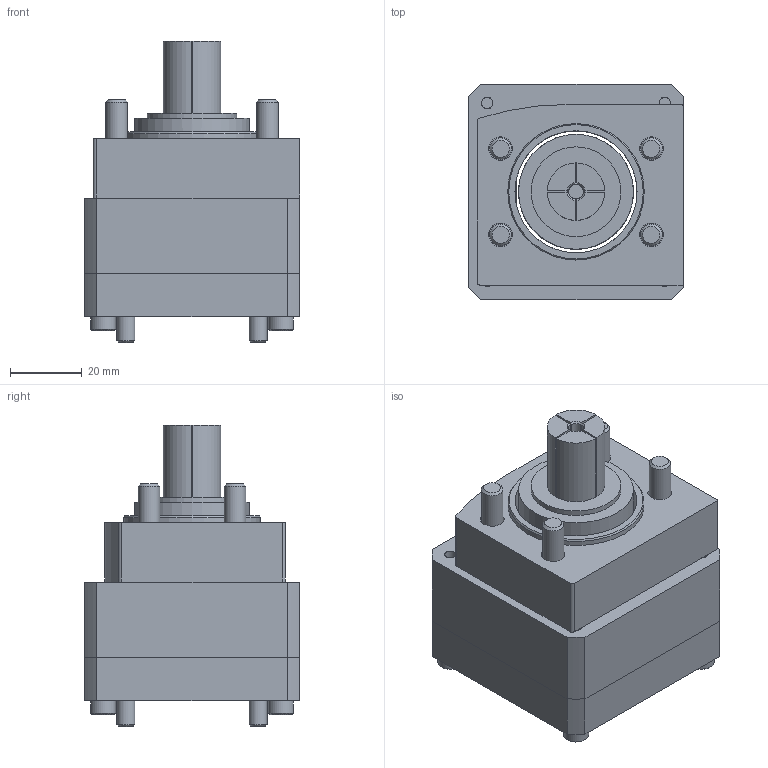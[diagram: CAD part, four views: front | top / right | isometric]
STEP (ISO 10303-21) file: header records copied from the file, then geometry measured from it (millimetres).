
FILE_DESCRIPTION(/* description */ ('EAMK-A O-Coupling housing'),/* implementation_level */ '2;1');
FILE_NAME(/* name */ 'C:\STORE\ホームページ用データ\\X2\30E230FC30BF53D64ED830AD30C330C8\X0\_2016_2016.10.06_\X2\30AB30BF30ED30B065398A025206\X0\\3D_STEP\1456616.stp',/* time_stamp */ '2016-10-17T15:56:11+09:00',/* author */ ('jp0tot'),/* organization */ ('FESTO'),/* preprocessor_version */ 'ST-DEVELOPER v15.6',/* originating_system */ 'Autodesk Inventor 2015',/* authorisation */ '');
FILE_SCHEMA (('AUTOMOTIVE_DESIGN { 1 0 10303 214 3 1 1 }'));
Length unit declared in the file: millimetre
Products named in the file (8): 1345947 EAMK-A-N38-38D---(6O); 1190015 EAMF-A-38D-60G_H(6A10); 660080 EAMF-A-44A_B-60G_H; DIN-912 - M4x20(F); DIN-912 - M5x10(F); 1377840 EAMD-32-32-14-16x20; DIN-912 - M6x40(F); 1456616 EAMM-A-N38-60H
Bounding box: 60 x 60 x 83.95 mm (x, y, z)
Volume: 136301.2 mm3; surface area: 56805 mm2
Topology: 16 solids, 17 shells, 577 faces, 1368 edges, 840 vertices
Faces by surface type: plane 291, cone 152, cylinder 130, torus 4
Full cylindrical faces by diameter (mm): 3.242 x5, 4 x5, 4.5 x4, 5 x4, 5.5 x4, 6 x4, 6.6 x8, 7 x5, 7.2 x1, 8.5 x6, 10 x8, 12 x1, 14 x1, 25 x1, 32 x1, 34 x2, 38 x2, 40 x1
Entity records: 9939 total; most frequent: CARTESIAN_POINT 1911, DIRECTION 1713, ORIENTED_EDGE 1508, EDGE_CURVE 754, AXIS2_PLACEMENT_3D 680, VERTEX_POINT 522, EDGE_LOOP 462, LINE 353
